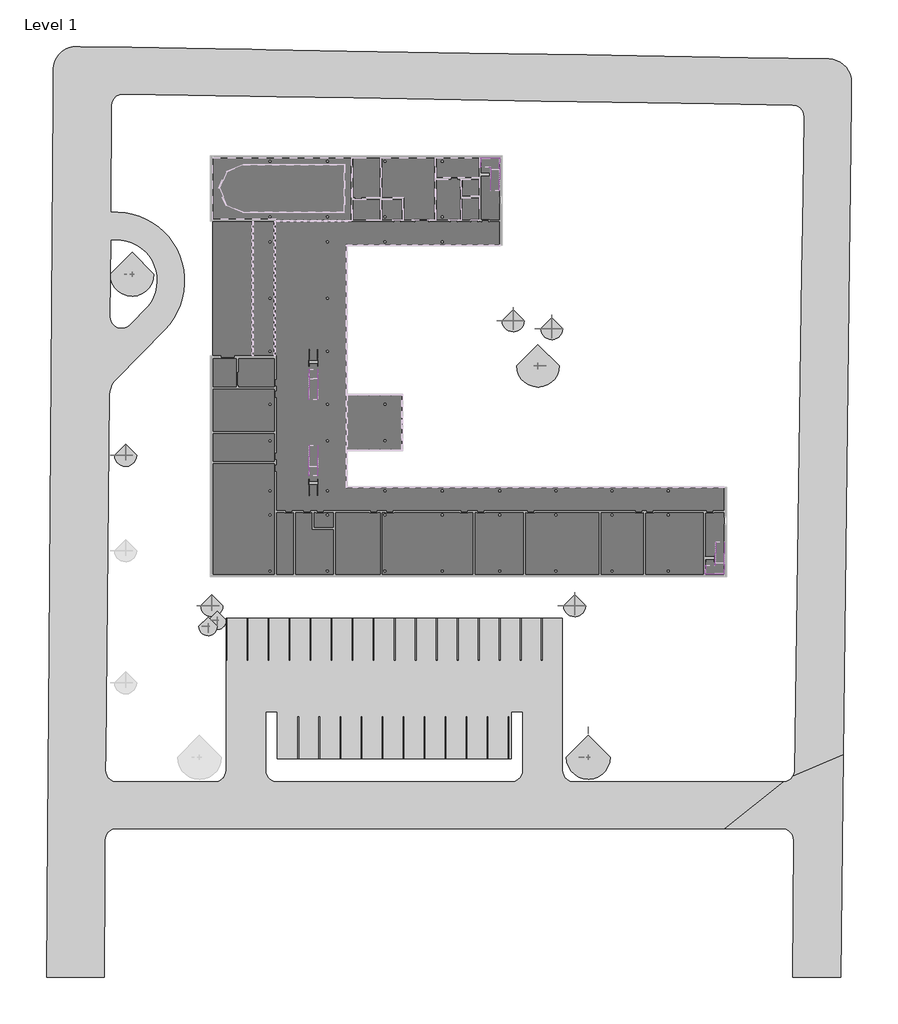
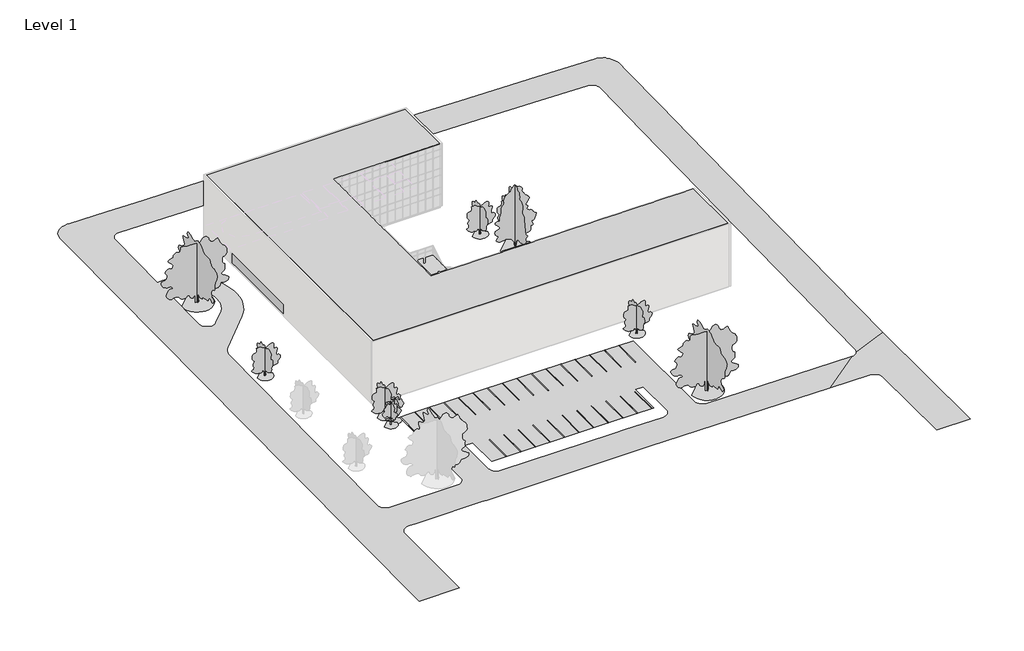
# One storey, part 23 of 23: 30 proxies, 28 members, 10 geographic elements.
"""IFC4 building model written with IfcOpenShell, lengths in millimetres."""

from ifc_helpers import new_model, si_unit, frame, origin, origin_with_axes, place, context, project, spatial, polyline, outline, extrude, faceted_brep, triangles, transform, mapped, element, save
from components import m_parking_space_5480_x_2740mm_90_deg_a793e569, m_rpc_tree_deciduous_american_beech_6_0_meters_be49fed4, m_rpc_tree_deciduous_japanese_cherry_4_5_meters_7aaeb41d, m_rpc_tree_deciduous_lombardy_poplar_12_2_meters_1b309f58, m_rpc_tree_deciduous_scarlet_oak_12_5_meters_13b38d7d

model = new_model("IFC4")

# Units and contexts
model_context = context("Model", 3, world=origin())
ifc_project = project(units=[si_unit("LENGTHUNIT", "METRE", prefix="MILLI")], contexts=[model_context])

# Site, building, storey
site = spatial("IfcSite", under=ifc_project)
building = spatial("IfcBuilding", under=site)
storey = spatial("IfcBuildingStorey", under=building, Name="Level 1", Elevation=0.0)

# Proxies
placement = place(None, origin())
element("IfcBuildingElementProxy", 1, Name="Building Element Proxy", at=placement, inside=storey, context=model_context, shape_type="Tessellation", body=[
    triangles([(70309.7548828, 43704.7137085, -503.1527547), (59746.7205688, 43879.5355957, -409.5406998), (45204.5570435, 44120.2092773, -278.9620967), (38757.531958, 44226.9097412, -221.9724431), (23364.4389771, 44481.6709351, -156.1477909), (7458.42556, 44744.915332, 0.0), (-3099.0088051, 44919.6442017, 0.0), (-4909.0805878, 44949.6005127, 0.0), (-9691.7927261, 45028.7538208, 0.0), (-13464.786264, 45091.2011719, 0.0), (-20574.5627563, 45208.8684082, 0.0), (-27271.6376953, 45319.7081543, 0.0), (-27739.5370422, 45327.4518677, 0.0), (-28264.1631592, 45290.0215942, 0.0), (-28774.1901672, 45161.5457153, 0.0), (-29253.9399536, 44945.9681763, 0.0), (-29688.6669067, 44649.9211304, 0.0), (-30065.011377, 44282.4970459, 0.0), (-30371.4019775, 43854.9975586, 0.0), (-30598.4230042, 43380.5567505, 0.0), (-30739.095813, 42873.755127, 0.0), (-30774.2820374, 42505.3404053, 0.0), (-30789.0997375, 42350.1824341, 0.0), (-30818.2607483, 38430.6216797, 0.0), (-31349.0702087, -32913.8142334, 0.0), (-31410.3827454, -41154.7298218, 0.0), (-31466.9560364, -48758.3494263, 0.0), (-31526.3942688, -56747.4710815, 0.0), (-31669.8878357, -76033.9217651, 0.0), (-24160.2671448, -76033.9217651, 0.0), (-24090.7853394, -62944.5904907, 0.0), (-24065.2287598, -58130.4099243, 0.0), (-24026.1078918, -57797.9371948, 0.0), (-23964.4744446, -57624.1291992, 0.0), (-23914.2263489, -57482.4262207, 0.0), (-23735.1558838, -57199.58302, 0.0), (-23497.8145569, -56963.4997559, 0.0), (-23214.0249023, -56785.9338501, 0.0), (-22897.9232666, -56675.7266235, 0.0), (-22565.2505493, -56638.3707642, 0.0), (-21189.1601257, -56638.3707642, 0.0), (-18714.6158203, -56638.3707642, 0.0), (-9198.8908356, -56638.3707642, 0.0), (-8594.8358459, -56638.3707642, 0.0), (-7828.2291504, -56638.3707642, 0.0), (21010.0826843, -56638.3707642, 0.0), (22698.8121643, -56638.3707642, 0.0), (56711.1151611, -56638.3707642, -334.7282604), (64236.9255615, -56638.3707642, -334.7282604), (64572.5050781, -56676.3916992, -334.0721231), (64891.0763306, -56788.5243896, -332.1369578), (65176.4821655, -56969.0808105, -329.020869), (65414.2630005, -57208.917334, -324.8818048), (65592.3591064, -57495.8672607, -319.9295998), (65701.7431274, -57815.3872925, -314.4152925), (65736.8712158, -58151.2830688, -308.6184443), (65582.9224731, -76033.9217651, 0.0), (71858.6882446, -76033.9217651, 0.0), (72207.6111328, -46972.9328247, -501.5343578), (72914.4470581, 11897.6051788, -595.5837407), (72981.5592407, 17486.9884277, -555.8220689), (73096.2220093, 27037.1194519, -545.4053719), (73231.3532959, 38291.881311, -535.7858282), (73259.8957397, 40669.1083008, -533.0508934), (73220.8237061, 41189.0672607, -532.0520082), (73092.3059692, 41694.4085083, -530.2807137), (72878.2306641, 42169.863208, -527.790495), (72585.0625122, 42601.0694458, -524.6566383), (72221.661438, 42975.0001099, -520.9737236), (71799.0035156, 43280.3582153, -516.8530812), (71329.8554077, 43507.9210693, -512.4191949), (70828.3883423, 43650.810022, -507.805959), (65844.943689, -49064.5493408, -435.8225258), (65789.1005859, -49448.423584, -434.7050795), (65636.6912842, -49805.1366943, -432.6774053), (65397.8965576, -50110.8436157, -429.875069), (65088.6968262, -50345.0897827, -426.4855594), (64729.7652466, -50492.2110352, -422.7355339), (64345.1050049, -50542.3707642, -418.8757768), (37077.7972778, -50542.3707642, -150.5276125), (36744.0176514, -50504.7637573, -147.2983764), (36426.9718872, -50393.8263428, -144.3423523), (36142.5636658, -50215.1163208, -141.8077414), (35905.0502563, -49977.6052368, -139.8216707), (35726.3448853, -49693.1946899, -138.4837074), (35615.4051453, -49376.1535767, -137.8609529), (35577.7981384, -49042.3692993, -137.9846372), (35577.7981384, -29206.3707642, -167.3300298), (18575.1115448, -29206.3707642, 0.0), (14497.9359924, -29206.3707642, 0.0), (-7039.9656372, -29206.3707642, 0.0), (-8262.2014984, -29206.3707642, 0.0), (-8262.2014984, -49042.3692993, 0.0), (-8299.809668, -49376.1535767, 0.0), (-8410.7482452, -49693.1946899, 0.0), (-8589.4541977, -49977.6052368, 0.0), (-8665.8786026, -50054.028479, 0.0), (-8826.9670258, -50215.1163208, 0.0), (-9111.3758286, -50393.8263428, 0.0), (-9428.4198486, -50504.7637573, 0.0), (-9455.9652603, -50507.8658936, 0.0), (-9762.2018005, -50542.3707642, 0.0), (-21961.0269653, -50542.3707642, 0.0), (-22489.1714722, -50542.3707642, 0.0), (-22825.1137573, -50504.2661133, 0.0), (-23143.9896423, -50391.896228, 0.0), (-23429.5977905, -50210.9584351, 0.0), (-23667.4274597, -49970.6568237, 0.0), (-23845.3979919, -49683.1953003, 0.0), (-23954.4657532, -49363.1729736, 0.0), (-23989.0915466, -49026.8539673, 0.0), (-23965.8278503, -46777.8191528, 0.0), (-23482.8736084, -89.4265001, 0.0), (-23435.7322998, 363.1888415, 0.0), (-23321.7694885, 803.7518847, 0.0), (-23143.5268799, 1222.4547432, 0.0), (-22904.9670227, 1609.9761475, 0.0), (-22611.4058716, 1957.6892258, 0.0), (-16262.7991974, 8428.9988754, 0.0), (-15636.7711304, 9137.9788559, 0.0), (-15088.4732025, 9908.6498383, 0.0), (-14623.9422546, 10732.5286194, 0.0), (-14248.2919281, 11600.5442413, 0.0), (-13965.658017, 12503.1414734, 0.0), (-13779.1507965, 13430.3848755, 0.0), (-13690.8247925, 14372.0646057, 0.0), (-13701.6508759, 15317.8173431, 0.0), (-13811.5116119, 16257.2297699, 0.0), (-14019.1954468, 17179.959494, 0.0), (-14322.4187988, 18075.8513214, 0.0), (-14717.8411743, 18935.0395752, 0.0), (-15201.1093506, 19748.0690186, 0.0), (-15766.9062103, 20505.9855469, 0.0), (-16409.0007385, 21200.4478088, 0.0), (-17120.3235992, 21823.812085, 0.0), (-17893.0473633, 22369.2160034, 0.0), (-18718.662085, 22830.6506287, 0.0), (-19588.0811096, 23203.0418518, 0.0), (-20491.7329285, 23482.2875977, 0.0), (-21419.6693115, 23665.3136353, 0.0), (-22361.6746033, 23750.1084595, 0.0), (-23307.3796692, 23735.7325928, 0.0), (-23203.9185425, 37641.6768127, 0.0), (-23163.3768311, 37977.0679688, 0.0), (-23048.8094055, 38294.8811279, 0.0), (-22866.0228882, 38578.9940186, 0.0), (-22624.2911316, 38814.9958923, 0.0), (-22335.8738525, 38990.915387, 0.0), (-22015.4050415, 39097.8274658, 0.0), (-21679.1371948, 39130.3092041, 0.0), (-13208.9460663, 38990.1293884, 0.0), (-9625.997905, 38930.8306824, 0.0), (-5084.1908295, 38855.6655029, 0.0), (-1645.9585442, 38798.7619995, 0.0), (8377.2142456, 38632.8791016, 0.0), (32875.1398499, 38227.4364075, -240.4937689), (46729.6360474, 37998.1434265, -299.7389899), (55435.3325684, 37854.0638489, -376.6945579), (65630.1847046, 37685.3392639, -468.2372987), (65962.9318359, 37642.302356, -471.261242), (66277.7870361, 37526.3815247, -474.1950019), (66559.0024292, 37343.376416, -476.8917123), (66792.4998047, 37102.4422852, -479.216534), (66966.6054565, 36815.6318848, -481.0531225), (67072.6082886, 36497.2978271, -482.3095865), (67105.1969971, 36163.3670471, -482.9230665), (67025.2297852, 30755.4808594, -487.4104743), (66899.3025879, 22239.1774292, -496.4906977), (66805.7827148, 15914.661145, -541.4088498), (-1581.9995121, -47494.3707642, 0.0), (18839.3663452, -47494.3707642, 0.0), (21324.2449036, -47494.3707642, 0.0), (28897.5965881, -47494.3707642, -74.5322966), (28897.5965881, -41398.3707642, -83.5507232), (30421.5965881, -41398.3707642, -98.5489992), (30421.5965881, -49042.3692993, -87.2404598), (30383.9895813, -49376.1535767, -86.3765409), (30273.0498413, -49693.1946899, -84.8157168), (30094.3444702, -49977.6052368, -82.6362441), (29856.8310608, -50215.1163208, -79.9474184), (29572.4228394, -50393.8263428, -76.8840607), (29255.3770752, -50504.7637573, -73.5997817), (28921.5974487, -50542.3707642, -70.2592743), (21782.4332153, -50542.3707642, 0.0), (19562.9384583, -50542.3707642, 0.0), (-1605.9993553, -50542.3707642, 0.0), (-1939.7807259, -50504.7637573, 0.0), (-2256.8250366, -50393.8263428, 0.0), (-2541.2341301, -50215.1163208, 0.0), (-2778.7466675, -49977.6052368, 0.0), (-2957.4526199, -49693.1946899, 0.0), (-3068.3911972, -49376.1535767, 0.0), (-3105.9993668, -49042.3692993, 0.0), (-3105.9993668, -41398.3707642, 0.0), (-1581.9995121, -41398.3707642, 0.0), (-23329.5411072, 20062.4428528, 0.0), (-22621.2355042, 20122.8182373, 0.0), (-21911.2137268, 20088.0784973, 0.0), (-21212.1866272, 19958.8398743, 0.0), (-20536.6766968, 19737.4208313, 0.0), (-19896.7808716, 19427.7839172, 0.0), (-19303.9589172, 19035.4776306, 0.0), (-18768.829953, 18567.527124, 0.0), (-18300.9771149, 18032.3132813, 0.0), (-17908.7801239, 17439.420401, 0.0), (-17599.2606445, 16799.4687653, 0.0), (-17377.9648499, 16123.9181396, 0.0), (-17248.854126, 15424.8677856, 0.0), (-17214.2422852, 14714.8378693, 0.0), (-17274.7478943, 14006.5438934, 0.0), (-17429.2872986, 13312.6722931, 0.0), (-17675.0943878, 12645.649054, 0.0), (-18007.7659424, 12017.4211212, 0.0), (-18421.3430237, 11439.2389709, 0.0), (-20791.7983337, 9022.9684341, 0.0), (-21073.2044128, 8797.119429, 0.0), (-21399.8193604, 8643.7590225, 0.0), (-21753.3349915, 8571.483783, 0.0), (-22113.9339111, 8584.3452072, 0.0), (-22461.4010742, 8681.6229904, 0.0), (-22776.2609253, 8857.8639771, 0.0), (-23040.8610535, 9103.1879562, 0.0), (-23240.3698059, 9403.8428604, 0.0), (-23363.6018188, 9742.9750671, 0.0), (-23403.6505371, 10101.5741089, 0.0)], [[29, 30, 31], [29, 31, 28], [28, 32, 33], [32, 28, 31], [33, 34, 28], [28, 34, 35], [36, 37, 108], [36, 108, 28], [108, 37, 107], [38, 106, 107], [106, 38, 39], [37, 38, 107], [36, 28, 35], [28, 108, 27], [110, 111, 27], [109, 110, 27], [26, 27, 112], [25, 112, 113], [112, 25, 26], [27, 111, 112], [109, 27, 108], [114, 115, 224], [113, 114, 225], [225, 114, 224], [223, 116, 117], [223, 224, 115], [116, 223, 115], [25, 113, 24], [24, 113, 225], [105, 39, 40], [104, 40, 103], [105, 40, 104], [117, 118, 222], [118, 219, 220], [221, 118, 220], [223, 117, 222], [103, 41, 42], [41, 103, 40], [219, 118, 218], [216, 118, 119], [217, 218, 118], [118, 216, 217], [216, 119, 215], [212, 213, 122], [214, 121, 213], [119, 214, 215], [221, 222, 118], [121, 122, 213], [122, 123, 212], [211, 123, 124], [211, 212, 123], [211, 124, 210], [210, 124, 125], [121, 214, 120], [120, 214, 119], [105, 106, 39], [142, 143, 24], [196, 142, 24], [24, 144, 145], [144, 24, 143], [24, 145, 23], [146, 23, 145], [142, 196, 197], [196, 24, 225], [140, 198, 139], [197, 198, 141], [141, 198, 140], [12, 146, 147], [141, 142, 197], [12, 147, 148], [22, 20, 21], [16, 17, 22], [20, 22, 19], [18, 19, 22], [17, 18, 22], [22, 23, 13], [23, 12, 13], [23, 146, 12], [149, 11, 148], [16, 22, 15], [22, 14, 15], [13, 14, 22], [149, 150, 11], [12, 148, 11], [139, 198, 199], [207, 208, 128], [133, 203, 204], [205, 206, 131], [132, 204, 205], [207, 129, 206], [209, 126, 127], [126, 209, 210], [127, 128, 208], [206, 130, 131], [130, 206, 129], [129, 207, 128], [127, 208, 209], [210, 125, 126], [131, 132, 205], [137, 201, 136], [200, 201, 137], [11, 150, 151], [139, 199, 138], [200, 137, 138], [201, 202, 136], [199, 200, 138], [203, 134, 202], [134, 135, 202], [136, 202, 135], [10, 151, 9], [10, 11, 151], [203, 133, 134], [204, 132, 133], [103, 42, 102], [100, 43, 44], [99, 100, 44], [102, 43, 101], [188, 45, 187], [100, 101, 43], [44, 45, 99], [45, 186, 187], [43, 102, 42], [185, 186, 46], [46, 186, 45], [184, 46, 47], [185, 46, 184], [182, 183, 47], [47, 183, 184], [182, 82, 181], [99, 45, 98], [98, 45, 97], [95, 96, 190], [93, 94, 192], [95, 191, 94], [97, 190, 96], [45, 189, 190], [45, 188, 189], [191, 192, 94], [191, 95, 190], [193, 93, 192], [180, 181, 83], [190, 97, 45], [81, 182, 47], [79, 50, 78], [49, 50, 79], [80, 47, 48], [48, 79, 80], [79, 48, 49], [81, 47, 80], [78, 50, 51], [57, 58, 56], [55, 59, 54], [77, 51, 52], [59, 75, 53], [76, 52, 53], [54, 59, 53], [182, 81, 82], [55, 56, 59], [180, 84, 179], [180, 83, 84], [179, 84, 85], [177, 178, 86], [85, 86, 178], [178, 179, 85], [87, 177, 86], [77, 78, 51], [75, 76, 53], [59, 73, 74], [74, 75, 59], [77, 52, 76], [82, 83, 181], [56, 58, 59], [170, 171, 195], [91, 92, 194], [194, 195, 91], [93, 194, 92], [195, 90, 91], [90, 195, 171], [194, 93, 193], [175, 176, 87], [172, 174, 89], [172, 173, 174], [175, 88, 174], [88, 175, 87], [172, 89, 171], [177, 87, 176], [89, 174, 88], [8, 152, 153], [7, 153, 154], [8, 9, 152], [6, 7, 154], [8, 153, 7], [154, 155, 6], [9, 151, 152], [89, 90, 171], [155, 5, 6], [155, 156, 5], [5, 156, 4], [4, 157, 3], [4, 156, 157], [168, 169, 61], [160, 161, 1], [162, 163, 64], [161, 162, 1], [163, 164, 63], [62, 168, 61], [61, 169, 60], [165, 166, 63], [167, 63, 166], [168, 62, 167], [164, 165, 63], [63, 167, 62], [3, 158, 2], [2, 158, 159], [2, 159, 1], [66, 71, 72], [72, 1, 65], [159, 160, 1], [158, 3, 157], [66, 72, 65], [64, 65, 1], [66, 67, 71], [69, 70, 68], [67, 68, 70], [71, 67, 70], [162, 64, 1], [163, 63, 64], [60, 169, 73], [59, 60, 73]], closed=False),
])
m_parking_space_5480_x_2740mm_90_deg_shape = m_parking_space_5480_x_2740mm_90_deg_a793e569(model_context)
element("IfcBuildingElementProxy", 2, Name="M_Parking Space : 5480 x 2740mm - 90 deg", ObjectType="M_Parking Space : 5480 x 2740mm - 90 deg", at=placement, inside=storey, context=model_context, shape_type="MappedRepresentation", body=[
    mapped(m_parking_space_5480_x_2740mm_90_deg_shape, transform((-8211.3704002, -29206.3707642, 0.7803686), x_axis=(1.0, 0.0, 0.0), y_axis=(0.0, 1.0, 0.0), z_axis=(0.0, 0.0, 1.0))),
])
element("IfcBuildingElementProxy", 3, Name="M_Parking Space : 5480 x 2740mm - 90 deg", ObjectType="M_Parking Space : 5480 x 2740mm - 90 deg", at=placement, inside=storey, context=model_context, shape_type="MappedRepresentation", body=[
    mapped(m_parking_space_5480_x_2740mm_90_deg_shape, transform((-5471.4012928, -29206.3707642, 0.7803686), x_axis=(1.0, 0.0, 0.0), y_axis=(0.0, 1.0, 0.0), z_axis=(0.0, 0.0, 1.0))),
])
element("IfcBuildingElementProxy", 4, Name="M_Parking Space : 5480 x 2740mm - 90 deg", ObjectType="M_Parking Space : 5480 x 2740mm - 90 deg", at=placement, inside=storey, context=model_context, shape_type="MappedRepresentation", body=[
    mapped(m_parking_space_5480_x_2740mm_90_deg_shape, transform((-2731.4321855, -29206.3707642, 0.7803686), x_axis=(1.0, 0.0, 0.0), y_axis=(0.0, 1.0, 0.0), z_axis=(0.0, 0.0, 1.0))),
])
element("IfcBuildingElementProxy", 5, Name="M_Parking Space : 5480 x 2740mm - 90 deg", ObjectType="M_Parking Space : 5480 x 2740mm - 90 deg", at=placement, inside=storey, context=model_context, shape_type="MappedRepresentation", body=[
    mapped(m_parking_space_5480_x_2740mm_90_deg_shape, transform((8.5369219, -29206.3707642, 0.7803686), x_axis=(1.0, 0.0, 0.0), y_axis=(0.0, 1.0, 0.0), z_axis=(0.0, 0.0, 1.0))),
])
element("IfcBuildingElementProxy", 6, Name="M_Parking Space : 5480 x 2740mm - 90 deg", ObjectType="M_Parking Space : 5480 x 2740mm - 90 deg", at=placement, inside=storey, context=model_context, shape_type="MappedRepresentation", body=[
    mapped(m_parking_space_5480_x_2740mm_90_deg_shape, transform((2748.5060292, -29206.3707642, 0.7803686), x_axis=(1.0, 0.0, 0.0), y_axis=(0.0, 1.0, 0.0), z_axis=(0.0, 0.0, 1.0))),
])
element("IfcBuildingElementProxy", 7, Name="M_Parking Space : 5480 x 2740mm - 90 deg", ObjectType="M_Parking Space : 5480 x 2740mm - 90 deg", at=placement, inside=storey, context=model_context, shape_type="MappedRepresentation", body=[
    mapped(m_parking_space_5480_x_2740mm_90_deg_shape, transform((5488.4751366, -29206.3707642, 0.7803686), x_axis=(1.0, 0.0, 0.0), y_axis=(0.0, 1.0, 0.0), z_axis=(0.0, 0.0, 1.0))),
])
element("IfcBuildingElementProxy", 8, Name="M_Parking Space : 5480 x 2740mm - 90 deg", ObjectType="M_Parking Space : 5480 x 2740mm - 90 deg", at=placement, inside=storey, context=model_context, shape_type="MappedRepresentation", body=[
    mapped(m_parking_space_5480_x_2740mm_90_deg_shape, transform((8228.4442439, -29206.3707642, 0.7803686), x_axis=(1.0, 0.0, 0.0), y_axis=(0.0, 1.0, 0.0), z_axis=(0.0, 0.0, 1.0))),
])
element("IfcBuildingElementProxy", 9, Name="M_Parking Space : 5480 x 2740mm - 90 deg", ObjectType="M_Parking Space : 5480 x 2740mm - 90 deg", at=placement, inside=storey, context=model_context, shape_type="MappedRepresentation", body=[
    mapped(m_parking_space_5480_x_2740mm_90_deg_shape, transform((10968.4133512, -29206.3707642, 0.7803686), x_axis=(1.0, 0.0, 0.0), y_axis=(0.0, 1.0, 0.0), z_axis=(0.0, 0.0, 1.0))),
])
element("IfcBuildingElementProxy", 10, Name="M_Parking Space : 5480 x 2740mm - 90 deg", ObjectType="M_Parking Space : 5480 x 2740mm - 90 deg", at=placement, inside=storey, context=model_context, shape_type="MappedRepresentation", body=[
    mapped(m_parking_space_5480_x_2740mm_90_deg_shape, transform((13708.3824586, -29206.3707642, 0.7803686), x_axis=(1.0, 0.0, 0.0), y_axis=(0.0, 1.0, 0.0), z_axis=(0.0, 0.0, 1.0))),
])
element("IfcBuildingElementProxy", 11, Name="M_Parking Space : 5480 x 2740mm - 90 deg", ObjectType="M_Parking Space : 5480 x 2740mm - 90 deg", at=placement, inside=storey, context=model_context, shape_type="MappedRepresentation", body=[
    mapped(m_parking_space_5480_x_2740mm_90_deg_shape, transform((16448.3515659, -29206.3707642, 0.7254434), x_axis=(1.0, 0.0, 0.0), y_axis=(0.0, 1.0, 0.0), z_axis=(0.0, 0.0, 1.0))),
])
element("IfcBuildingElementProxy", 12, Name="M_Parking Space : 5480 x 2740mm - 90 deg", ObjectType="M_Parking Space : 5480 x 2740mm - 90 deg", at=placement, inside=storey, context=model_context, shape_type="MappedRepresentation", body=[
    mapped(m_parking_space_5480_x_2740mm_90_deg_shape, transform((19188.3206733, -29206.3707642, -5.2310848), x_axis=(0.9999560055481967, 0.0, -0.009380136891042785), y_axis=(-1.1675017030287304e-05, 0.9999992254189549, -0.0012445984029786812), z_axis=(0.009380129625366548, 0.0012446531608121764, 0.9999552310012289))),
])
element("IfcBuildingElementProxy", 13, Name="M_Parking Space : 5480 x 2740mm - 90 deg", ObjectType="M_Parking Space : 5480 x 2740mm - 90 deg", at=placement, inside=storey, context=model_context, shape_type="MappedRepresentation", body=[
    mapped(m_parking_space_5480_x_2740mm_90_deg_shape, transform((21928.2897806, -29206.3707642, -32.2196013), x_axis=(0.9999515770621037, 0.0, -0.0098409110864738), y_axis=(-1.4557933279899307e-05, 0.9999989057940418, -0.0014792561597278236), z_axis=(0.009840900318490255, 0.0014793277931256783, 0.99995048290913))),
])
element("IfcBuildingElementProxy", 14, Name="M_Parking Space : 5480 x 2740mm - 90 deg", ObjectType="M_Parking Space : 5480 x 2740mm - 90 deg", at=placement, inside=storey, context=model_context, shape_type="MappedRepresentation", body=[
    mapped(m_parking_space_5480_x_2740mm_90_deg_shape, transform((24668.258888, -29206.3707642, -59.1846994), x_axis=(0.9999515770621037, 0.0, -0.009840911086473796), y_axis=(-1.4557933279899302e-05, 0.9999989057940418, -0.0014792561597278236), z_axis=(0.009840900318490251, 0.0014793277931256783, 0.99995048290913))),
])
element("IfcBuildingElementProxy", 15, Name="M_Parking Space : 5480 x 2740mm - 90 deg", ObjectType="M_Parking Space : 5480 x 2740mm - 90 deg", at=placement, inside=storey, context=model_context, shape_type="MappedRepresentation", body=[
    mapped(m_parking_space_5480_x_2740mm_90_deg_shape, transform((27408.2279953, -29206.3707642, -86.1497975), x_axis=(0.9999515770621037, 0.0, -0.0098409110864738), y_axis=(-1.4557933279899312e-05, 0.9999989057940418, -0.001479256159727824), z_axis=(0.009840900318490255, 0.0014793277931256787, 0.99995048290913))),
])
element("IfcBuildingElementProxy", 16, Name="M_Parking Space : 5480 x 2740mm - 90 deg", ObjectType="M_Parking Space : 5480 x 2740mm - 90 deg", at=placement, inside=storey, context=model_context, shape_type="MappedRepresentation", body=[
    mapped(m_parking_space_5480_x_2740mm_90_deg_shape, transform((30148.1971027, -29206.3707642, -113.1148956), x_axis=(0.9999515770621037, 0.0, -0.009840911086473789), y_axis=(-1.4557933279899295e-05, 0.9999989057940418, -0.001479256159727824), z_axis=(0.009840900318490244, 0.0014793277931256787, 0.99995048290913))),
])
element("IfcBuildingElementProxy", 17, Name="M_Parking Space : 5480 x 2740mm - 90 deg", ObjectType="M_Parking Space : 5480 x 2740mm - 90 deg", at=placement, inside=storey, context=model_context, shape_type="MappedRepresentation", body=[
    mapped(m_parking_space_5480_x_2740mm_90_deg_shape, transform((32888.16621, -29206.3707642, -140.0799937), x_axis=(0.9999515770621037, 0.0, -0.009840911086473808), y_axis=(-1.4557933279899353e-05, 0.9999989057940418, -0.0014792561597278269), z_axis=(0.009840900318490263, 0.0014793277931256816, 0.99995048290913))),
])
element("IfcBuildingElementProxy", 18, Name="M_Parking Space : 5480 x 2740mm - 90 deg", ObjectType="M_Parking Space : 5480 x 2740mm - 90 deg", at=placement, inside=storey, context=model_context, shape_type="MappedRepresentation", body=[
    mapped(m_parking_space_5480_x_2740mm_90_deg_shape, transform((28558.0005584, -47494.3704098, -70.4098691), x_axis=(-0.9999515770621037, 0.0, 0.009840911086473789), y_axis=(1.4557933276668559e-05, -0.9999989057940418, 0.0014792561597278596), z_axis=(0.00984090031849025, 0.0014793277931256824, 0.99995048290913))),
])
element("IfcBuildingElementProxy", 19, Name="M_Parking Space : 5480 x 2740mm - 90 deg", ObjectType="M_Parking Space : 5480 x 2740mm - 90 deg", at=placement, inside=storey, context=model_context, shape_type="MappedRepresentation", body=[
    mapped(m_parking_space_5480_x_2740mm_90_deg_shape, transform((25818.031746, -47494.3704098, -43.444774), x_axis=(-0.9999515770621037, 0.0, 0.009840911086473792), y_axis=(1.455793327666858e-05, -0.9999989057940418, 0.0014792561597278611), z_axis=(0.009840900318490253, 0.001479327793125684, 0.99995048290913))),
])
element("IfcBuildingElementProxy", 20, Name="M_Parking Space : 5480 x 2740mm - 90 deg", ObjectType="M_Parking Space : 5480 x 2740mm - 90 deg", at=placement, inside=storey, context=model_context, shape_type="MappedRepresentation", body=[
    mapped(m_parking_space_5480_x_2740mm_90_deg_shape, transform((23078.0629336, -47494.3704098, -16.4796788), x_axis=(-0.9999515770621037, 0.0, 0.009840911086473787), y_axis=(1.4557933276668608e-05, -0.9999989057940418, 0.0014792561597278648), z_axis=(0.009840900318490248, 0.0014793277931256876, 0.99995048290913))),
])
element("IfcBuildingElementProxy", 21, Name="M_Parking Space : 5480 x 2740mm - 90 deg", ObjectType="M_Parking Space : 5480 x 2740mm - 90 deg", at=placement, inside=storey, context=model_context, shape_type="MappedRepresentation", body=[
    mapped(m_parking_space_5480_x_2740mm_90_deg_shape, transform((20338.0941212, -47494.3704098, 0.5399922), x_axis=(-0.9999888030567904, 0.0, 0.004732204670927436), y_axis=(3.5003760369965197e-06, -0.9999997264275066, 0.0007396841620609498), z_axis=(0.004732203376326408, 0.0007396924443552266, 0.9999885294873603))),
])
element("IfcBuildingElementProxy", 22, Name="M_Parking Space : 5480 x 2740mm - 90 deg", ObjectType="M_Parking Space : 5480 x 2740mm - 90 deg", at=placement, inside=storey, context=model_context, shape_type="MappedRepresentation", body=[
    mapped(m_parking_space_5480_x_2740mm_90_deg_shape, transform((17598.1253087, -47494.3704098, 0.7803686), x_axis=(-1.0, 0.0, 0.0), y_axis=(0.0, -1.0, 0.0), z_axis=(0.0, 0.0, 1.0))),
])
element("IfcBuildingElementProxy", 23, Name="M_Parking Space : 5480 x 2740mm - 90 deg", ObjectType="M_Parking Space : 5480 x 2740mm - 90 deg", at=placement, inside=storey, context=model_context, shape_type="MappedRepresentation", body=[
    mapped(m_parking_space_5480_x_2740mm_90_deg_shape, transform((14858.1564963, -47494.3704098, 0.7803686), x_axis=(-1.0, 0.0, 0.0), y_axis=(0.0, -1.0, 0.0), z_axis=(0.0, 0.0, 1.0))),
])
element("IfcBuildingElementProxy", 24, Name="M_Parking Space : 5480 x 2740mm - 90 deg", ObjectType="M_Parking Space : 5480 x 2740mm - 90 deg", at=placement, inside=storey, context=model_context, shape_type="MappedRepresentation", body=[
    mapped(m_parking_space_5480_x_2740mm_90_deg_shape, transform((12118.1876839, -47494.3704098, 0.7803686), x_axis=(-1.0, 0.0, 0.0), y_axis=(0.0, -1.0, 0.0), z_axis=(0.0, 0.0, 1.0))),
])
element("IfcBuildingElementProxy", 25, Name="M_Parking Space : 5480 x 2740mm - 90 deg", ObjectType="M_Parking Space : 5480 x 2740mm - 90 deg", at=placement, inside=storey, context=model_context, shape_type="MappedRepresentation", body=[
    mapped(m_parking_space_5480_x_2740mm_90_deg_shape, transform((9378.2188715, -47494.3704098, 0.7803686), x_axis=(-1.0, 0.0, 0.0), y_axis=(0.0, -1.0, 0.0), z_axis=(0.0, 0.0, 1.0))),
])
element("IfcBuildingElementProxy", 26, Name="M_Parking Space : 5480 x 2740mm - 90 deg", ObjectType="M_Parking Space : 5480 x 2740mm - 90 deg", at=placement, inside=storey, context=model_context, shape_type="MappedRepresentation", body=[
    mapped(m_parking_space_5480_x_2740mm_90_deg_shape, transform((6638.2500591, -47494.3704098, 0.7803686), x_axis=(-1.0, 0.0, 0.0), y_axis=(0.0, -1.0, 0.0), z_axis=(0.0, 0.0, 1.0))),
])
element("IfcBuildingElementProxy", 27, Name="M_Parking Space : 5480 x 2740mm - 90 deg", ObjectType="M_Parking Space : 5480 x 2740mm - 90 deg", at=placement, inside=storey, context=model_context, shape_type="MappedRepresentation", body=[
    mapped(m_parking_space_5480_x_2740mm_90_deg_shape, transform((3898.2812467, -47494.3704098, 0.7803686), x_axis=(-1.0, 0.0, 0.0), y_axis=(0.0, -1.0, 0.0), z_axis=(0.0, 0.0, 1.0))),
])
element("IfcBuildingElementProxy", 28, Name="M_Parking Space : 5480 x 2740mm - 90 deg", ObjectType="M_Parking Space : 5480 x 2740mm - 90 deg", at=placement, inside=storey, context=model_context, shape_type="MappedRepresentation", body=[
    mapped(m_parking_space_5480_x_2740mm_90_deg_shape, transform((1158.3124343, -47494.3704098, 0.7803686), x_axis=(-1.0, 0.0, 0.0), y_axis=(0.0, -1.0, 0.0), z_axis=(0.0, 0.0, 1.0))),
])
element("IfcBuildingElementProxy", 29, Name="Main Building : Main Building", ObjectType="Main Building : Main Building", at=placement, inside=storey, context=model_context, shape_type="SweptSolid", body=[
    extrude(outline(polyline([(27411.8999097, 30818.5799804), (27411.8999097, 19414.8392059), (7447.5010724, 19414.8392059), (7447.5010724, -12132.3615692), (56699.1173382, -12132.3615692), (56699.1173382, -23510.7006057), (-10026.8386635, -23510.7006057), (-10026.8386635, 30818.5799804), (27411.8999097, 30818.5799804)])), origin_with_axes(), (0.0, 0.0, 1.0), 12400.0),
])
element("IfcBuildingElementProxy", 30, Name="Pavillion : Pavillion", ObjectType="Pavillion : Pavillion", at=placement, inside=storey, context=model_context, shape_type="SweptSolid", body=[
    extrude(outline(polyline([(14709.0902051, -89.4607941), (14709.0902051, -7283.8611817), (7447.5010724, -7283.8611817), (7447.5010724, -89.4607941), (14709.0902051, -89.4607941)])), origin_with_axes(), (0.0, 0.0, 1.0), 6600.0),
])

# Geographic elements
m_rpc_tree_deciduous_american_beech_6_0_meters_shape = m_rpc_tree_deciduous_american_beech_6_0_meters_be49fed4(model_context)
element("IfcGeographicElement", 31, ObjectType="M_RPC Tree - Deciduous : American Beech - 6.0 Meters", at=placement, inside=storey, context=model_context, shape_type="MappedRepresentation", body=[
    mapped(m_rpc_tree_deciduous_american_beech_6_0_meters_shape, transform((34188.8932364, 8562.754829, -209.5369666), x_axis=(1.0, 0.0, 0.0), y_axis=(0.0, 1.0, 0.0), z_axis=(0.0, 0.0, 1.0))),
])
element("IfcGeographicElement", 32, ObjectType="M_RPC Tree - Deciduous : American Beech - 6.0 Meters", at=placement, inside=storey, context=model_context, shape_type="MappedRepresentation", body=[
    mapped(m_rpc_tree_deciduous_american_beech_6_0_meters_shape, transform((-21369.8074033, -7968.5149933, 0.0), x_axis=(1.0, 0.0, 0.0), y_axis=(0.0, 1.0, 0.0), z_axis=(0.0, 0.0, 1.0))),
])
element("IfcGeographicElement", 33, ObjectType="M_RPC Tree - Deciduous : American Beech - 6.0 Meters", at=placement, inside=storey, context=model_context, shape_type="MappedRepresentation", body=[
    mapped(m_rpc_tree_deciduous_american_beech_6_0_meters_shape, transform((-10121.7269057, -27567.443133, 0.0), x_axis=(1.0, 0.0, 0.0), y_axis=(0.0, 1.0, 0.0), z_axis=(0.0, 0.0, 1.0))),
])
element("IfcGeographicElement", 34, ObjectType="M_RPC Tree - Deciduous : American Beech - 6.0 Meters", at=placement, inside=storey, context=model_context, shape_type="MappedRepresentation", body=[
    mapped(m_rpc_tree_deciduous_american_beech_6_0_meters_shape, transform((37171.3388229, -27567.443133, -185.4373169), x_axis=(1.0, 0.0, 0.0), y_axis=(0.0, 1.0, 0.0), z_axis=(0.0, 0.0, 1.0))),
])
element("IfcGeographicElement", 35, ObjectType="M_RPC Tree - Deciduous : American Beech - 6.0 Meters", at=placement, inside=storey, context=model_context, shape_type="MappedRepresentation", body=[
    mapped(m_rpc_tree_deciduous_american_beech_6_0_meters_shape, transform((29161.3421049, 9585.3076015, -161.5716527), x_axis=(1.0, 0.0, 0.0), y_axis=(0.0, 1.0, 0.0), z_axis=(0.0, 0.0, 1.0))),
])
m_rpc_tree_deciduous_japanese_cherry_4_5_meters_shape = m_rpc_tree_deciduous_japanese_cherry_4_5_meters_7aaeb41d(model_context)
element("IfcGeographicElement", 36, ObjectType="M_RPC Tree - Deciduous : Japanese Cherry - 4.5 Meters", at=placement, inside=storey, context=model_context, shape_type="MappedRepresentation", body=[
    mapped(m_rpc_tree_deciduous_japanese_cherry_4_5_meters_shape, transform((-10610.2166919, -30274.1375785, 0.0), x_axis=(1.0, 0.0, 0.0), y_axis=(0.0, 1.0, 0.0), z_axis=(0.0, 0.0, 1.0))),
])
element("IfcGeographicElement", 37, ObjectType="M_RPC Tree - Deciduous : Japanese Cherry - 4.5 Meters", at=placement, inside=storey, context=model_context, shape_type="MappedRepresentation", body=[
    mapped(m_rpc_tree_deciduous_japanese_cherry_4_5_meters_shape, transform((-9420.9461982, -29474.7859552, 0.0), x_axis=(1.0, 0.0, 0.0), y_axis=(0.0, 1.0, 0.0), z_axis=(0.0, 0.0, 1.0))),
])
m_rpc_tree_deciduous_lombardy_poplar_12_2_meters_shape = m_rpc_tree_deciduous_lombardy_poplar_12_2_meters_1b309f58(model_context)
element("IfcGeographicElement", 38, ObjectType="M_RPC Tree - Deciduous : Lombardy Poplar - 12.2 Meters", at=placement, inside=storey, context=model_context, shape_type="MappedRepresentation", body=[
    mapped(m_rpc_tree_deciduous_lombardy_poplar_12_2_meters_shape, transform((32399.4258845, 3705.6291595, -184.7404879), x_axis=(1.0, 0.0, 0.0), y_axis=(0.0, 1.0, 0.0), z_axis=(0.0, 0.0, 1.0))),
])
m_rpc_tree_deciduous_scarlet_oak_12_5_meters_shape = m_rpc_tree_deciduous_scarlet_oak_12_5_meters_13b38d7d(model_context)
element("IfcGeographicElement", 39, ObjectType="M_RPC Tree - Deciduous : Scarlet Oak - 12.5 Meters", at=placement, inside=storey, context=model_context, shape_type="MappedRepresentation", body=[
    mapped(m_rpc_tree_deciduous_scarlet_oak_12_5_meters_shape, transform((38960.8061748, -47336.7967349, -173.8013564), x_axis=(1.0, 0.0, 0.0), y_axis=(0.0, 1.0, 0.0), z_axis=(0.0, 0.0, 1.0))),
])
element("IfcGeographicElement", 40, ObjectType="M_RPC Tree - Deciduous : Scarlet Oak - 12.5 Meters", at=placement, inside=storey, context=model_context, shape_type="MappedRepresentation", body=[
    mapped(m_rpc_tree_deciduous_scarlet_oak_12_5_meters_shape, transform((-20517.6800928, 15635.4115055, 0.0), x_axis=(1.0, 0.0, 0.0), y_axis=(0.0, 1.0, 0.0), z_axis=(0.0, 0.0, 1.0))),
])

# Members
element("IfcMember", 41, ObjectType="Stringer - 50mm Width", at=placement, inside=storey, context=model_context, shape_type="SweptSolid", body=[
    extrude(outline(polyline([(6000.5392059, 214.6805108), (6000.5392059, 0.0), (5590.2907134, 0.0), (3126.6770165, 1547.393727), (3241.8773748, 1947.393727), (6000.5392059, 214.6805108)])), frame((3668.6567657, 0.0, 0.0), z_axis=(1.0, 0.0, 0.0), x_axis=(0.0, 1.0, 0.0)), (0.0, 0.0, 1.0), 50.0),
])
element("IfcMember", 42, ObjectType="Stringer - 50mm Width", at=placement, inside=storey, context=model_context, shape_type="SweptSolid", body=[
    extrude(outline(polyline([(6000.5392059, 214.6805108), (6000.5392059, 0.0), (5590.2907134, 0.0), (3126.6770165, 1547.393727), (3241.8773748, 1947.393727), (6000.5392059, 214.6805108)])), frame((2518.6567657, 0.0, 0.0), z_axis=(1.0, 0.0, 0.0), x_axis=(0.0, 1.0, 0.0)), (0.0, 0.0, 1.0), 50.0),
])
element("IfcMember", 43, ObjectType="Stringer - 50mm Width", at=placement, inside=storey, context=model_context, shape_type="SweptSolid", body=[
    extrude(outline(polyline([(2316.8773748, 1947.393727), (2201.6770165, 1547.393727), (-699.4607941, 3369.5959882), (-699.4607941, 3841.953238), (2316.8773748, 1947.393727)])), frame((3668.6567657, 0.0, 0.0), z_axis=(1.0, 0.0, 0.0), x_axis=(0.0, 1.0, 0.0)), (0.0, 0.0, 1.0), 50.0),
])
element("IfcMember", 44, ObjectType="Stringer - 50mm Width", at=placement, inside=storey, context=model_context, shape_type="SweptSolid", body=[
    extrude(outline(polyline([(2316.8773748, 1947.393727), (2201.6770165, 1547.393727), (-699.4607941, 3369.5959882), (-699.4607941, 3841.953238), (2316.8773748, 1947.393727)])), frame((2518.6567657, 0.0, 0.0), z_axis=(1.0, 0.0, 0.0), x_axis=(0.0, 1.0, 0.0)), (0.0, 0.0, 1.0), 50.0),
])
element("IfcMember", 45, ObjectType="Stringer - 50mm Width", at=placement, inside=storey, context=model_context, shape_type="SweptSolid", body=[
    extrude(outline(polyline([(2201.6770165, 1547.393727), (2316.8773748, 1947.393727), (3241.8773748, 1947.393727), (3126.6770165, 1547.393727), (2201.6770165, 1547.393727)])), frame((3668.6567657, 0.0, 0.0), z_axis=(1.0, 0.0, 0.0), x_axis=(0.0, 1.0, 0.0)), (0.0, 0.0, 1.0), 50.0),
])
element("IfcMember", 46, ObjectType="Stringer - 50mm Width", at=placement, inside=storey, context=model_context, shape_type="SweptSolid", body=[
    extrude(outline(polyline([(3241.8773748, 1947.393727), (3126.6770165, 1547.393727), (2201.6770165, 1547.393727), (2316.8773748, 1947.393727), (3241.8773748, 1947.393727)])), frame((2518.6567657, 0.0, 0.0), z_axis=(1.0, 0.0, 0.0), x_axis=(0.0, 1.0, 0.0)), (0.0, 0.0, 1.0), 50.0),
])
element("IfcMember", 47, ObjectType="Stringer - 50mm Width", at=placement, inside=storey, context=model_context, shape_type="SweptSolid", body=[
    extrude(outline(polyline([(-13373.8611817, 0.0), (-13373.8611817, 214.6805108), (-10615.1993506, 1947.393727), (-10499.9989923, 1547.393727), (-12963.6126892, 0.0), (-13373.8611817, 0.0)])), frame((2518.6567657, 0.0, 0.0), z_axis=(1.0, 0.0, 0.0), x_axis=(0.0, 1.0, 0.0)), (0.0, 0.0, 1.0), 50.0),
])
element("IfcMember", 48, ObjectType="Stringer - 50mm Width", at=placement, inside=storey, context=model_context, shape_type="SweptSolid", body=[
    extrude(outline(polyline([(-13373.8611817, 0.0), (-13373.8611817, 214.6805108), (-10615.1993506, 1947.393727), (-10499.9989923, 1547.393727), (-12963.6126892, 0.0), (-13373.8611817, 0.0)])), frame((3668.6567657, 0.0, 0.0), z_axis=(1.0, 0.0, 0.0), x_axis=(0.0, 1.0, 0.0)), (0.0, 0.0, 1.0), 50.0),
])
element("IfcMember", 49, ObjectType="Stringer - 50mm Width", at=placement, inside=storey, context=model_context, shape_type="SweptSolid", body=[
    extrude(outline(polyline([(-9574.9989923, 1547.393727), (-9690.1993506, 1947.393727), (-6673.8611817, 3841.953238), (-6673.8611817, 3369.5959882), (-9574.9989923, 1547.393727)])), frame((2518.6567657, 0.0, 0.0), z_axis=(1.0, 0.0, 0.0), x_axis=(0.0, 1.0, 0.0)), (0.0, 0.0, 1.0), 50.0),
])
element("IfcMember", 50, ObjectType="Stringer - 50mm Width", at=placement, inside=storey, context=model_context, shape_type="SweptSolid", body=[
    extrude(outline(polyline([(-9574.9989923, 1547.393727), (-9690.1993506, 1947.393727), (-6673.8611817, 3841.953238), (-6673.8611817, 3369.5959882), (-9574.9989923, 1547.393727)])), frame((3668.6567657, 0.0, 0.0), z_axis=(1.0, 0.0, 0.0), x_axis=(0.0, 1.0, 0.0)), (0.0, 0.0, 1.0), 50.0),
])
element("IfcMember", 51, ObjectType="Stringer - 50mm Width", at=placement, inside=storey, context=model_context, shape_type="SweptSolid", body=[
    extrude(outline(polyline([(-9690.1993506, 1947.393727), (-9574.9989923, 1547.393727), (-10499.9989923, 1547.393727), (-10615.1993506, 1947.393727), (-9690.1993506, 1947.393727)])), frame((2518.6567657, 0.0, 0.0), z_axis=(1.0, 0.0, 0.0), x_axis=(0.0, 1.0, 0.0)), (0.0, 0.0, 1.0), 50.0),
])
element("IfcMember", 52, ObjectType="Stringer - 50mm Width", at=placement, inside=storey, context=model_context, shape_type="SweptSolid", body=[
    extrude(outline(polyline([(-10499.9989923, 1547.393727), (-10615.1993506, 1947.393727), (-9690.1993506, 1947.393727), (-9574.9989923, 1547.393727), (-10499.9989923, 1547.393727)])), frame((3668.6567657, 0.0, 0.0), z_axis=(1.0, 0.0, 0.0), x_axis=(0.0, 1.0, 0.0)), (0.0, 0.0, 1.0), 50.0),
])
element("IfcMember", 53, ObjectType="Stringer - 50mm Width", at=placement, inside=storey, context=model_context, shape_type="SweptSolid", body=[
    extrude(outline(polyline([(-19540.7006057, 214.6805108), (-19540.7006057, 0.0), (-19950.9490982, 0.0), (-22240.7006057, 1438.1910295), (-22240.7006057, 1910.5482793), (-19540.7006057, 214.6805108)])), frame((55349.1173382, 0.0, 0.0), z_axis=(1.0, 0.0, 0.0), x_axis=(0.0, 1.0, 0.0)), (0.0, 0.0, 1.0), 50.0),
])
element("IfcMember", 54, ObjectType="Stringer - 50mm Width", at=placement, inside=storey, context=model_context, shape_type="SweptSolid", body=[
    extrude(outline(polyline([(-19540.7006057, 214.6805108), (-19540.7006057, 0.0), (-19950.9490982, 0.0), (-22414.5627951, 1547.393727), (-22299.3624368, 1947.393727), (-19540.7006057, 214.6805108)])), frame((54199.1173382, 0.0, 0.0), z_axis=(1.0, 0.0, 0.0), x_axis=(0.0, 1.0, 0.0)), (0.0, 0.0, 1.0), 50.0),
])
element("IfcMember", 55, ObjectType="Stringer - 50mm Width", at=placement, inside=storey, context=model_context, shape_type="SweptSolid", body=[
    extrude(outline(polyline([(-22290.7006057, 1547.393727), (-22290.7006057, 1941.953238), (-19265.7006057, 3841.953238), (-19265.7006057, 3369.5959882), (-22166.8384163, 1547.393727), (-22290.7006057, 1547.393727)])), frame((55499.1173382, 0.0, 0.0), z_axis=(1.0, 0.0, 0.0), x_axis=(0.0, 1.0, 0.0)), (0.0, 0.0, 1.0), 50.0),
])
element("IfcMember", 56, ObjectType="Stringer - 50mm Width", at=placement, inside=storey, context=model_context, shape_type="SweptSolid", body=[
    extrude(outline(polyline([(-22166.8384163, 1547.393727), (-22282.0387746, 1947.393727), (-19265.7006057, 3841.953238), (-19265.7006057, 3369.5959882), (-22166.8384163, 1547.393727)])), frame((56649.1173382, 0.0, 0.0), z_axis=(1.0, 0.0, 0.0), x_axis=(0.0, 1.0, 0.0)), (0.0, 0.0, 1.0), 50.0),
])
element("IfcMember", 57, ObjectType="Stringer - 50mm Width", at=placement, inside=storey, context=model_context, shape_type="Brep", body=[
    faceted_brep([(54249.1173382, -22299.3624368, 1947.393727), (54199.1173382, -22299.3624368, 1947.393727), (54199.1173382, -23440.7006057, 1947.393727), (54249.1173382, -23390.7006057, 1947.393727), (54249.1173382, -22414.5627951, 1547.393727), (54249.1173382, -23390.7006057, 1547.393727), (54199.1173382, -22414.5627951, 1547.393727), (54199.1173382, -23440.7006057, 1547.393727)], [[[0, 1, 2, 3]], [[4, 0, 3, 5]], [[6, 4, 5, 7]], [[1, 6, 7, 2]], [[1, 0, 4, 6]], [[2, 7, 5, 3]]]),
])
element("IfcMember", 58, ObjectType="Stringer - 50mm Width", at=placement, inside=storey, context=model_context, shape_type="SweptSolid", body=[
    extrude(outline(polyline([(54199.1173382, -23440.7006057), (54249.1173382, -23390.7006057), (56649.1173382, -23390.7006057), (56699.1173382, -23440.7006057), (54199.1173382, -23440.7006057)])), frame((0.0, 0.0, 1547.393727), z_axis=(0.0, 0.0, 1.0), x_axis=(1.0, 0.0, 0.0)), (0.0, 0.0, 1.0), 400.0),
])
element("IfcMember", 59, ObjectType="Stringer - 50mm Width", at=placement, inside=storey, context=model_context, shape_type="SweptSolid", body=[
    extrude(outline(polyline([(55499.1173382, -22240.7006057), (55499.1173382, -22290.7006057), (55349.1173382, -22290.7006057), (55349.1173382, -22240.7006057), (55499.1173382, -22240.7006057)])), frame((0.0, 0.0, 1547.393727), z_axis=(0.0, 0.0, 1.0), x_axis=(1.0, 0.0, 0.0)), (0.0, 0.0, 1.0), 400.0),
])
element("IfcMember", 60, ObjectType="Stringer - 50mm Width", at=placement, inside=storey, context=model_context, shape_type="Brep", body=[
    faceted_brep([(56649.1173382, -23390.7006057, 1947.393727), (56699.1173382, -23440.7006057, 1947.393727), (56699.1173382, -22282.0387746, 1947.393727), (56649.1173382, -22282.0387746, 1947.393727), (56649.1173382, -23390.7006057, 1547.393727), (56649.1173382, -22166.8384163, 1547.393727), (56699.1173382, -23440.7006057, 1547.393727), (56699.1173382, -22166.8384163, 1547.393727)], [[[0, 1, 2, 3]], [[4, 0, 3, 5]], [[6, 4, 5, 7]], [[1, 6, 7, 2]], [[1, 0, 4, 6]], [[2, 7, 5, 3]]]),
])
element("IfcMember", 61, ObjectType="Stringer - 50mm Width", at=placement, inside=storey, context=model_context, shape_type="SweptSolid", body=[
    extrude(outline(polyline([(26848.5799804, 0.0), (26848.5799804, 214.6805108), (29607.2418115, 1947.393727), (29722.4421698, 1547.393727), (27258.8284729, 0.0), (26848.5799804, 0.0)])), frame((24911.8999097, 0.0, 0.0), z_axis=(1.0, 0.0, 0.0), x_axis=(0.0, 1.0, 0.0)), (0.0, 0.0, 1.0), 50.0),
])
element("IfcMember", 62, ObjectType="Stringer - 50mm Width", at=placement, inside=storey, context=model_context, shape_type="SweptSolid", body=[
    extrude(outline(polyline([(26848.5799804, 0.0), (26848.5799804, 214.6805108), (29548.5799804, 1910.5482793), (29548.5799804, 1438.1910295), (27258.8284729, 0.0), (26848.5799804, 0.0)])), frame((26061.8999097, 0.0, 0.0), z_axis=(1.0, 0.0, 0.0), x_axis=(0.0, 1.0, 0.0)), (0.0, 0.0, 1.0), 50.0),
])
element("IfcMember", 63, ObjectType="Stringer - 50mm Width", at=placement, inside=storey, context=model_context, shape_type="SweptSolid", body=[
    extrude(outline(polyline([(29589.9181493, 1947.393727), (29474.717791, 1547.393727), (26573.5799804, 3369.5959882), (26573.5799804, 3841.953238), (29589.9181493, 1947.393727)])), frame((27361.8999097, 0.0, 0.0), z_axis=(1.0, 0.0, 0.0), x_axis=(0.0, 1.0, 0.0)), (0.0, 0.0, 1.0), 50.0),
])
element("IfcMember", 64, ObjectType="Stringer - 50mm Width", at=placement, inside=storey, context=model_context, shape_type="SweptSolid", body=[
    extrude(outline(polyline([(29548.5799804, 1973.3581967), (29548.5799804, 1547.393727), (29474.717791, 1547.393727), (26573.5799804, 3369.5959882), (26573.5799804, 3841.953238), (29548.5799804, 1973.3581967)])), frame((26211.8999097, 0.0, 0.0), z_axis=(1.0, 0.0, 0.0), x_axis=(0.0, 1.0, 0.0)), (0.0, 0.0, 1.0), 50.0),
])
element("IfcMember", 65, ObjectType="Stringer - 50mm Width", at=placement, inside=storey, context=model_context, shape_type="Brep", body=[
    faceted_brep([(27361.8999097, 29589.9181493, 1947.393727), (27411.8999097, 29589.9181493, 1947.393727), (27411.8999097, 30828.5799804, 1947.393727), (27361.8999097, 30778.5799804, 1947.393727), (27361.8999097, 29474.717791, 1547.393727), (27361.8999097, 30778.5799804, 1547.393727), (27411.8999097, 29474.717791, 1547.393727), (27411.8999097, 30828.5799804, 1547.393727)], [[[0, 1, 2, 3]], [[4, 0, 3, 5]], [[6, 4, 5, 7]], [[1, 6, 7, 2]], [[1, 0, 4, 6]], [[2, 7, 5, 3]]]),
])
element("IfcMember", 66, ObjectType="Stringer - 50mm Width", at=placement, inside=storey, context=model_context, shape_type="SweptSolid", body=[
    extrude(outline(polyline([(27411.8999097, 30828.5799804), (27361.8999097, 30778.5799804), (24961.8999097, 30778.5799804), (24911.8999097, 30828.5799804), (27411.8999097, 30828.5799804)])), frame((0.0, 0.0, 1547.393727), z_axis=(0.0, 0.0, 1.0), x_axis=(1.0, 0.0, 0.0)), (0.0, 0.0, 1.0), 400.0),
])
element("IfcMember", 67, ObjectType="Stringer - 50mm Width", at=placement, inside=storey, context=model_context, shape_type="Brep", body=[
    faceted_brep([(24961.8999097, 30778.5799804, 1947.393727), (24911.8999097, 30828.5799804, 1947.393727), (24911.8999097, 29607.2418115, 1947.393727), (24961.8999097, 29607.2418115, 1947.393727), (24961.8999097, 30778.5799804, 1547.393727), (24961.8999097, 29722.4421698, 1547.393727), (24911.8999097, 30828.5799804, 1547.393727), (24911.8999097, 29722.4421698, 1547.393727)], [[[0, 1, 2, 3]], [[4, 0, 3, 5]], [[6, 4, 5, 7]], [[1, 6, 7, 2]], [[1, 0, 4, 6]], [[2, 7, 5, 3]]]),
])
element("IfcMember", 68, ObjectType="Stringer - 50mm Width", at=placement, inside=storey, context=model_context, shape_type="SweptSolid", body=[
    extrude(outline(polyline([(26061.8999097, 29548.5799804), (26061.8999097, 29598.5799804), (26261.8999097, 29598.5799804), (26261.8999097, 29548.5799804), (26061.8999097, 29548.5799804)])), frame((0.0, 0.0, 1547.393727), z_axis=(0.0, 0.0, 1.0), x_axis=(1.0, 0.0, 0.0)), (0.0, 0.0, 1.0), 400.0),
])

save(model, "model.ifc")
